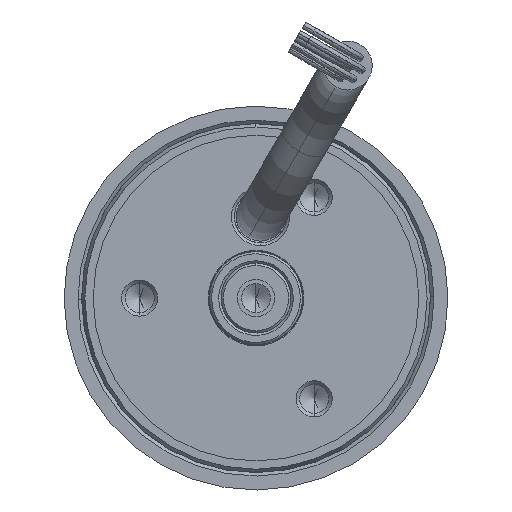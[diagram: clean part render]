
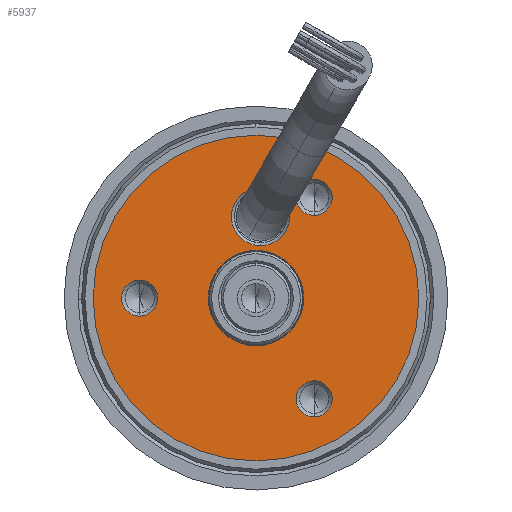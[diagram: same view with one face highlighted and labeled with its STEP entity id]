
A CAD part, left-side view. The second image highlights one B-rep face of the part: STEP entity #5937.
In plain terms, the highlighted planar face has unit normal (-1, 0, 0).
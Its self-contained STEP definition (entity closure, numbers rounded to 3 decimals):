
#48 = EDGE_CURVE ( 'NONE', #4605, #671, #6865, .T. ) ;
#73 = CARTESIAN_POINT ( 'NONE',  ( 0., -5., 8.66 ) ) ;
#263 = FACE_BOUND ( 'NONE', #6006, .T. ) ;
#392 = DIRECTION ( 'NONE',  ( -1., 0., 0. ) ) ;
#445 = CIRCLE ( 'NONE', #6760, 1.55 ) ;
#493 = EDGE_CURVE ( 'NONE', #2779, #5232, #7909, .T. ) ;
#521 = DIRECTION ( 'NONE',  ( 0., 0., -1. ) ) ;
#671 = VERTEX_POINT ( 'NONE', #4867 ) ;
#672 = CIRCLE ( 'NONE', #8025, 4. ) ;
#711 = ORIENTED_EDGE ( 'NONE', *, *, #8794, .F. ) ;
#749 = ORIENTED_EDGE ( 'NONE', *, *, #7799, .T. ) ;
#767 = AXIS2_PLACEMENT_3D ( 'NONE', #4957, #7673, #8367 ) ;
#809 = ORIENTED_EDGE ( 'NONE', *, *, #1202, .F. ) ;
#886 = DIRECTION ( 'NONE',  ( -1., 0., 0. ) ) ;
#888 = VERTEX_POINT ( 'NONE', #1681 ) ;
#950 = CARTESIAN_POINT ( 'NONE',  ( 0., 10., -1.55 ) ) ;
#954 = ORIENTED_EDGE ( 'NONE', *, *, #6566, .F. ) ;
#984 = ORIENTED_EDGE ( 'NONE', *, *, #3345, .F. ) ;
#1133 = DIRECTION ( 'NONE',  ( 1., 0., 0. ) ) ;
#1151 = DIRECTION ( 'NONE',  ( -1., 0., 0. ) ) ;
#1202 = EDGE_CURVE ( 'NONE', #5232, #2779, #3454, .T. ) ;
#1288 = DIRECTION ( 'NONE',  ( 0., 0., 1. ) ) ;
#1289 = VERTEX_POINT ( 'NONE', #7685 ) ;
#1355 = CARTESIAN_POINT ( 'NONE',  ( 0., -5., 7.11 ) ) ;
#1395 = DIRECTION ( 'NONE',  ( 0., 0., 1. ) ) ;
#1625 = ORIENTED_EDGE ( 'NONE', *, *, #6387, .F. ) ;
#1681 = CARTESIAN_POINT ( 'NONE',  ( 0., -0.39, 4.5 ) ) ;
#1862 = CARTESIAN_POINT ( 'NONE',  ( 0., -5., -8.66 ) ) ;
#1969 = EDGE_LOOP ( 'NONE', ( #5931, #809 ) ) ;
#1973 = AXIS2_PLACEMENT_3D ( 'NONE', #6613, #8641, #4541 ) ;
#1978 = DIRECTION ( 'NONE',  ( 0., 0., 1. ) ) ;
#2045 = ORIENTED_EDGE ( 'NONE', *, *, #8797, .F. ) ;
#2315 = CARTESIAN_POINT ( 'NONE',  ( 0., 0., 0. ) ) ;
#2367 = CIRCLE ( 'NONE', #767, 1.55 ) ;
#2474 = DIRECTION ( 'NONE',  ( 0., 0., 1. ) ) ;
#2606 = VERTEX_POINT ( 'NONE', #6927 ) ;
#2640 = ORIENTED_EDGE ( 'NONE', *, *, #8467, .T. ) ;
#2779 = VERTEX_POINT ( 'NONE', #7750 ) ;
#2823 = EDGE_CURVE ( 'NONE', #2606, #3422, #2367, .T. ) ;
#2933 = AXIS2_PLACEMENT_3D ( 'NONE', #5589, #8260, #4180 ) ;
#2943 = CARTESIAN_POINT ( 'NONE',  ( 0., -5., 8.66 ) ) ;
#3189 = AXIS2_PLACEMENT_3D ( 'NONE', #7275, #8009, #1288 ) ;
#3197 = CARTESIAN_POINT ( 'NONE',  ( 0., -0.39, 7. ) ) ;
#3257 = CIRCLE ( 'NONE', #3189, 1.55 ) ;
#3345 = EDGE_CURVE ( 'NONE', #7061, #888, #4290, .T. ) ;
#3422 = VERTEX_POINT ( 'NONE', #950 ) ;
#3454 = CIRCLE ( 'NONE', #2933, 1.55 ) ;
#3910 = FACE_BOUND ( 'NONE', #8684, .T. ) ;
#4046 = EDGE_LOOP ( 'NONE', ( #749, #2640 ) ) ;
#4180 = DIRECTION ( 'NONE',  ( 0., 0., 1. ) ) ;
#4196 = ORIENTED_EDGE ( 'NONE', *, *, #48, .F. ) ;
#4290 = CIRCLE ( 'NONE', #4705, 2.5 ) ;
#4341 = VERTEX_POINT ( 'NONE', #5369 ) ;
#4541 = DIRECTION ( 'NONE',  ( 0., 0., 1. ) ) ;
#4567 = AXIS2_PLACEMENT_3D ( 'NONE', #7415, #8088, #1978 ) ;
#4605 = VERTEX_POINT ( 'NONE', #5200 ) ;
#4615 = FACE_BOUND ( 'NONE', #8141, .T. ) ;
#4705 = AXIS2_PLACEMENT_3D ( 'NONE', #6284, #6976, #4826 ) ;
#4826 = DIRECTION ( 'NONE',  ( 0., 0., 1. ) ) ;
#4867 = CARTESIAN_POINT ( 'NONE',  ( 0., 0., 4. ) ) ;
#4957 = CARTESIAN_POINT ( 'NONE',  ( 0., 10., 0. ) ) ;
#5106 = AXIS2_PLACEMENT_3D ( 'NONE', #1862, #1151, #6663 ) ;
#5107 = CARTESIAN_POINT ( 'NONE',  ( 0., 0., 0. ) ) ;
#5200 = CARTESIAN_POINT ( 'NONE',  ( 0., 0., -4. ) ) ;
#5232 = VERTEX_POINT ( 'NONE', #6690 ) ;
#5239 = DIRECTION ( 'NONE',  ( -1., 0., 0. ) ) ;
#5369 = CARTESIAN_POINT ( 'NONE',  ( 0., 0., -14. ) ) ;
#5477 = FACE_OUTER_BOUND ( 'NONE', #4046, .T. ) ;
#5589 = CARTESIAN_POINT ( 'NONE',  ( 0., -5., -8.66 ) ) ;
#5621 = CARTESIAN_POINT ( 'NONE',  ( 0., -0.39, 9.5 ) ) ;
#5695 = DIRECTION ( 'NONE',  ( -1., 0., 0. ) ) ;
#5931 = ORIENTED_EDGE ( 'NONE', *, *, #493, .F. ) ;
#5937 = ADVANCED_FACE ( 'NONE', ( #6570, #3910, #6441, #263, #4615, #5477 ), #5989, .F. ) ;
#5989 = PLANE ( 'NONE',  #7956 ) ;
#6002 = AXIS2_PLACEMENT_3D ( 'NONE', #2315, #6434, #7125 ) ;
#6006 = EDGE_LOOP ( 'NONE', ( #984, #1625 ) ) ;
#6130 = AXIS2_PLACEMENT_3D ( 'NONE', #73, #5695, #1395 ) ;
#6237 = CARTESIAN_POINT ( 'NONE',  ( 0., -5., 10.21 ) ) ;
#6248 = CIRCLE ( 'NONE', #6002, 14. ) ;
#6284 = CARTESIAN_POINT ( 'NONE',  ( 0., -0.39, 7. ) ) ;
#6300 = DIRECTION ( 'NONE',  ( 0., 0., 1. ) ) ;
#6387 = EDGE_CURVE ( 'NONE', #888, #7061, #6425, .T. ) ;
#6425 = CIRCLE ( 'NONE', #7330, 2.5 ) ;
#6434 = DIRECTION ( 'NONE',  ( -1., 0., 0. ) ) ;
#6441 = FACE_BOUND ( 'NONE', #8400, .T. ) ;
#6566 = EDGE_CURVE ( 'NONE', #7500, #7546, #445, .T. ) ;
#6570 = FACE_BOUND ( 'NONE', #1969, .T. ) ;
#6613 = CARTESIAN_POINT ( 'NONE',  ( 0., 0., 0. ) ) ;
#6663 = DIRECTION ( 'NONE',  ( 0., 0., 1. ) ) ;
#6690 = CARTESIAN_POINT ( 'NONE',  ( 0., -5., -10.21 ) ) ;
#6760 = AXIS2_PLACEMENT_3D ( 'NONE', #2943, #886, #6300 ) ;
#6776 = CIRCLE ( 'NONE', #1973, 14. ) ;
#6865 = CIRCLE ( 'NONE', #4567, 4. ) ;
#6927 = CARTESIAN_POINT ( 'NONE',  ( 0., 10., 1.55 ) ) ;
#6976 = DIRECTION ( 'NONE',  ( -1., 0., 0. ) ) ;
#7061 = VERTEX_POINT ( 'NONE', #5621 ) ;
#7125 = DIRECTION ( 'NONE',  ( 0., 0., 1. ) ) ;
#7275 = CARTESIAN_POINT ( 'NONE',  ( 0., 10., 0. ) ) ;
#7303 = DIRECTION ( 'NONE',  ( 0., 0., 1. ) ) ;
#7330 = AXIS2_PLACEMENT_3D ( 'NONE', #3197, #5239, #7303 ) ;
#7415 = CARTESIAN_POINT ( 'NONE',  ( 0., 0., 0. ) ) ;
#7500 = VERTEX_POINT ( 'NONE', #1355 ) ;
#7526 = ORIENTED_EDGE ( 'NONE', *, *, #2823, .F. ) ;
#7546 = VERTEX_POINT ( 'NONE', #6237 ) ;
#7673 = DIRECTION ( 'NONE',  ( -1., 0., 0. ) ) ;
#7685 = CARTESIAN_POINT ( 'NONE',  ( 0., 0., 14. ) ) ;
#7750 = CARTESIAN_POINT ( 'NONE',  ( 0., -5., -7.11 ) ) ;
#7799 = EDGE_CURVE ( 'NONE', #1289, #4341, #6248, .T. ) ;
#7821 = ORIENTED_EDGE ( 'NONE', *, *, #8096, .F. ) ;
#7909 = CIRCLE ( 'NONE', #5106, 1.55 ) ;
#7956 = AXIS2_PLACEMENT_3D ( 'NONE', #8000, #1133, #521 ) ;
#8000 = CARTESIAN_POINT ( 'NONE',  ( 0., 4., 0. ) ) ;
#8009 = DIRECTION ( 'NONE',  ( -1., 0., 0. ) ) ;
#8025 = AXIS2_PLACEMENT_3D ( 'NONE', #5107, #392, #2474 ) ;
#8088 = DIRECTION ( 'NONE',  ( -1., 0., 0. ) ) ;
#8096 = EDGE_CURVE ( 'NONE', #7546, #7500, #8704, .T. ) ;
#8141 = EDGE_LOOP ( 'NONE', ( #711, #4196 ) ) ;
#8260 = DIRECTION ( 'NONE',  ( -1., 0., 0. ) ) ;
#8367 = DIRECTION ( 'NONE',  ( 0., 0., 1. ) ) ;
#8400 = EDGE_LOOP ( 'NONE', ( #7821, #954 ) ) ;
#8467 = EDGE_CURVE ( 'NONE', #4341, #1289, #6776, .T. ) ;
#8641 = DIRECTION ( 'NONE',  ( -1., 0., 0. ) ) ;
#8684 = EDGE_LOOP ( 'NONE', ( #7526, #2045 ) ) ;
#8704 = CIRCLE ( 'NONE', #6130, 1.55 ) ;
#8794 = EDGE_CURVE ( 'NONE', #671, #4605, #672, .T. ) ;
#8797 = EDGE_CURVE ( 'NONE', #3422, #2606, #3257, .T. ) ;
